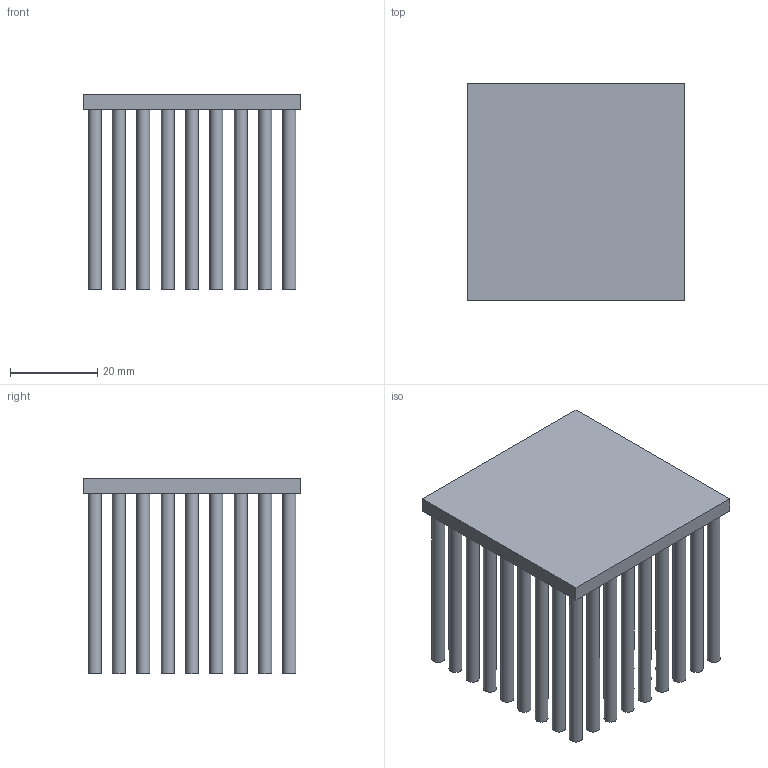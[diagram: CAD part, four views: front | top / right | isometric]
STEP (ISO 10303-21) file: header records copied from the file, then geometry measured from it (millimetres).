
FILE_DESCRIPTION(/* description */ (''),/* implementation_level */ '2;1');
FILE_NAME(/* name */ 'PB5050-B3.5-H45-P81.stp',/* time_stamp */ '2013-12-30T14:02:04+08:00',/* author */ (''),/* organization */ (''),/* preprocessor_version */ 'ST-DEVELOPER v14',/* originating_system */ 'SIEMENS PLM Software NX 8.0',/* authorisation */ '');
FILE_SCHEMA (('CONFIG_CONTROL_DESIGN'));
Length unit declared in the file: millimetre
Products named in the file (1): PB5050-P81
Bounding box: 50 x 50 x 45 mm (x, y, z)
Volume: 32511 mm3; surface area: 37381.4 mm2
Topology: 1 solids, 1 shells, 168 faces, 255 edges, 170 vertices
Faces by surface type: plane 87, cylinder 81
Full cylindrical faces by diameter (mm): 3 x81
Entity records: 3480 total; most frequent: DIRECTION 674, CARTESIAN_POINT 513, ORIENTED_EDGE 348, AXIS2_PLACEMENT_3D 331, EDGE_LOOP 330, FACE_BOUND 244, EDGE_CURVE 174, VERTEX_POINT 170
